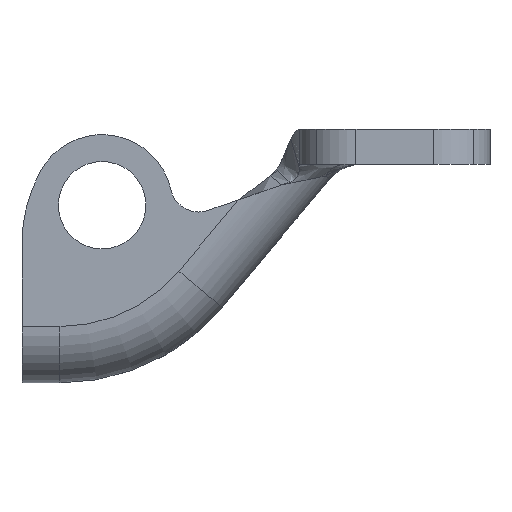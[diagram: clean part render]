
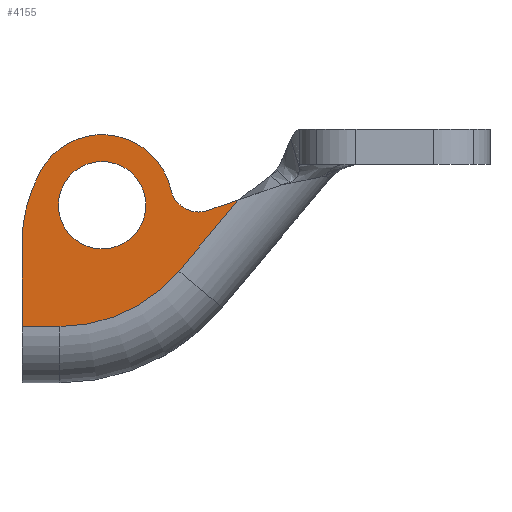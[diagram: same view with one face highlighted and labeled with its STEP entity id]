
A CAD part, front view. The second image highlights one B-rep face of the part: STEP entity #4155.
In plain terms, the highlighted planar face has unit normal (0, -1, 0).
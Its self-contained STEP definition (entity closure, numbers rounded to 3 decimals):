
#79=AXIS2_PLACEMENT_3D('Circle Axis2P3D',#77,#78,$) ;
#168=AXIS2_PLACEMENT_3D('Circle Axis2P3D',#166,#167,$) ;
#208=AXIS2_PLACEMENT_3D('Circle Axis2P3D',#206,#207,$) ;
#225=AXIS2_PLACEMENT_3D('Circle Axis2P3D',#223,#224,$) ;
#270=AXIS2_PLACEMENT_3D('Circle Axis2P3D',#268,#269,$) ;
#287=AXIS2_PLACEMENT_3D('Circle Axis2P3D',#285,#286,$) ;
#484=AXIS2_PLACEMENT_3D('Circle Axis2P3D',#482,#483,$) ;
#508=AXIS2_PLACEMENT_3D('Circle Axis2P3D',#506,#507,$) ;
#546=AXIS2_PLACEMENT_3D('Circle Axis2P3D',#544,#545,$) ;
#570=AXIS2_PLACEMENT_3D('Circle Axis2P3D',#568,#569,$) ;
#700=AXIS2_PLACEMENT_3D('Circle Axis2P3D',#698,#699,$) ;
#4112=AXIS2_PLACEMENT_3D('Plane Axis2P3D',#4109,#4110,#4111) ;
#4116=AXIS2_PLACEMENT_3D('Circle Axis2P3D',#4114,#4115,$) ;
#37=CARTESIAN_POINT('Line Origine',(142.085,-22.8,22.606)) ;
#41=CARTESIAN_POINT('Vertex',(143.183,-22.8,22.984)) ;
#43=CARTESIAN_POINT('Vertex',(140.987,-22.8,22.228)) ;
#77=CARTESIAN_POINT('Axis2P3D Location',(140.336,-22.8,24.119)) ;
#81=CARTESIAN_POINT('Vertex',(139.381,-22.8,22.361)) ;
#163=CARTESIAN_POINT('Vertex',(138.395,-22.8,23.635)) ;
#166=CARTESIAN_POINT('Axis2P3D Location',(140.336,-22.8,24.119)) ;
#187=CARTESIAN_POINT('Vertex',(130.526,-22.8,26.619)) ;
#203=CARTESIAN_POINT('Vertex',(128.864,-22.8,24.473)) ;
#206=CARTESIAN_POINT('Axis2P3D Location',(133.5,-22.8,22.6)) ;
#223=CARTESIAN_POINT('Axis2P3D Location',(133.5,-22.8,22.6)) ;
#227=CARTESIAN_POINT('Vertex',(133.064,-22.8,27.581)) ;
#258=CARTESIAN_POINT('Vertex',(136.404,-22.8,26.671)) ;
#268=CARTESIAN_POINT('Axis2P3D Location',(133.5,-22.8,22.6)) ;
#285=CARTESIAN_POINT('Axis2P3D Location',(133.5,-22.8,22.6)) ;
#289=CARTESIAN_POINT('Vertex',(138.351,-22.8,23.81)) ;
#316=CARTESIAN_POINT('Line Origine',(138.373,-22.8,23.722)) ;
#479=CARTESIAN_POINT('Vertex',(136.6,-22.8,22.6)) ;
#482=CARTESIAN_POINT('Axis2P3D Location',(133.5,-22.8,22.6)) ;
#486=CARTESIAN_POINT('Vertex',(133.5,-22.8,25.7)) ;
#506=CARTESIAN_POINT('Axis2P3D Location',(133.5,-22.8,22.6)) ;
#510=CARTESIAN_POINT('Vertex',(130.4,-22.8,22.6)) ;
#544=CARTESIAN_POINT('Axis2P3D Location',(133.5,-22.8,22.6)) ;
#548=CARTESIAN_POINT('Vertex',(133.5,-22.8,19.5)) ;
#568=CARTESIAN_POINT('Axis2P3D Location',(133.5,-22.8,22.6)) ;
#614=CARTESIAN_POINT('Line Origine',(140.05,-22.8,19.25)) ;
#618=CARTESIAN_POINT('Vertex',(138.941,-22.8,17.929)) ;
#688=CARTESIAN_POINT('Vertex',(130.515,-22.8,14.)) ;
#698=CARTESIAN_POINT('Axis2P3D Location',(130.515,-22.8,25.)) ;
#722=CARTESIAN_POINT('Line Origine',(138.868,-22.8,14.)) ;
#726=CARTESIAN_POINT('Vertex',(127.822,-22.8,14.)) ;
#4109=CARTESIAN_POINT('Axis2P3D Location',(117.,-22.8,28.)) ;
#4114=CARTESIAN_POINT('Axis2P3D Location',(137.822,-22.8,19.95)) ;
#4118=CARTESIAN_POINT('Vertex',(127.822,-22.8,19.95)) ;
#4120=CARTESIAN_POINT('Vertex',(128.55,-22.8,23.696)) ;
#4123=CARTESIAN_POINT('Line Origine',(127.822,-22.8,16.975)) ;
#4128=CARTESIAN_POINT('Line Origine',(128.707,-22.8,24.085)) ;
#38=DIRECTION('Vector Direction',(-0.946,0.,-0.326)) ;
#78=DIRECTION('Axis2P3D Direction',(-0.,1.,0.)) ;
#167=DIRECTION('Axis2P3D Direction',(-0.,1.,0.)) ;
#207=DIRECTION('Axis2P3D Direction',(0.,1.,0.)) ;
#224=DIRECTION('Axis2P3D Direction',(0.,1.,0.)) ;
#269=DIRECTION('Axis2P3D Direction',(0.,1.,0.)) ;
#286=DIRECTION('Axis2P3D Direction',(0.,1.,0.)) ;
#317=DIRECTION('Vector Direction',(-0.242,0.,0.97)) ;
#483=DIRECTION('Axis2P3D Direction',(0.,1.,0.)) ;
#507=DIRECTION('Axis2P3D Direction',(0.,1.,0.)) ;
#545=DIRECTION('Axis2P3D Direction',(0.,1.,-0.)) ;
#569=DIRECTION('Axis2P3D Direction',(0.,1.,-0.)) ;
#615=DIRECTION('Vector Direction',(0.643,0.,0.766)) ;
#699=DIRECTION('Axis2P3D Direction',(0.,1.,0.)) ;
#723=DIRECTION('Vector Direction',(1.,0.,0.)) ;
#4110=DIRECTION('Axis2P3D Direction',(-0.,1.,0.)) ;
#4111=DIRECTION('Axis2P3D XDirection',(1.,0.,0.)) ;
#4115=DIRECTION('Axis2P3D Direction',(-0.,1.,0.)) ;
#4124=DIRECTION('Vector Direction',(0.,0.,1.)) ;
#4129=DIRECTION('Vector Direction',(0.375,0.,0.927)) ;
#39=VECTOR('Line Direction',#38,1.) ;
#318=VECTOR('Line Direction',#317,1.) ;
#616=VECTOR('Line Direction',#615,1.) ;
#724=VECTOR('Line Direction',#723,1.) ;
#4125=VECTOR('Line Direction',#4124,1.) ;
#4130=VECTOR('Line Direction',#4129,1.) ;
#4134=ORIENTED_EDGE('',*,*,#4122,.F.) ;
#4135=ORIENTED_EDGE('',*,*,#4127,.F.) ;
#4136=ORIENTED_EDGE('',*,*,#728,.T.) ;
#4137=ORIENTED_EDGE('',*,*,#702,.T.) ;
#4138=ORIENTED_EDGE('',*,*,#620,.T.) ;
#4139=ORIENTED_EDGE('',*,*,#45,.T.) ;
#4140=ORIENTED_EDGE('',*,*,#83,.F.) ;
#4141=ORIENTED_EDGE('',*,*,#170,.F.) ;
#4142=ORIENTED_EDGE('',*,*,#320,.T.) ;
#4143=ORIENTED_EDGE('',*,*,#291,.T.) ;
#4144=ORIENTED_EDGE('',*,*,#272,.T.) ;
#4145=ORIENTED_EDGE('',*,*,#229,.F.) ;
#4146=ORIENTED_EDGE('',*,*,#210,.F.) ;
#4147=ORIENTED_EDGE('',*,*,#4132,.F.) ;
#4150=ORIENTED_EDGE('',*,*,#512,.F.) ;
#4151=ORIENTED_EDGE('',*,*,#488,.F.) ;
#4152=ORIENTED_EDGE('',*,*,#572,.T.) ;
#4153=ORIENTED_EDGE('',*,*,#550,.T.) ;
#4154=FACE_BOUND('',#4149,.T.) ;
#4155=ADVANCED_FACE('\X2\6C1452A88F6C76D889E395015B8988C594A391D1\X0\',(#4148,#4154),#4113,.F.) ;
#80=CIRCLE('generated circle',#79,2.) ;
#169=CIRCLE('generated circle',#168,2.) ;
#209=CIRCLE('generated circle',#208,5.) ;
#226=CIRCLE('generated circle',#225,5.) ;
#271=CIRCLE('generated circle',#270,5.) ;
#288=CIRCLE('generated circle',#287,5.) ;
#485=CIRCLE('generated circle',#484,3.1) ;
#509=CIRCLE('generated circle',#508,3.1) ;
#547=CIRCLE('generated circle',#546,3.1) ;
#571=CIRCLE('generated circle',#570,3.1) ;
#701=CIRCLE('generated circle',#700,11.) ;
#4117=CIRCLE('generated circle',#4116,10.) ;
#45=EDGE_CURVE('',#42,#44,#40,.T.) ;
#83=EDGE_CURVE('',#82,#44,#80,.F.) ;
#170=EDGE_CURVE('',#164,#82,#169,.F.) ;
#210=EDGE_CURVE('',#204,#188,#209,.T.) ;
#229=EDGE_CURVE('',#188,#228,#226,.T.) ;
#272=EDGE_CURVE('',#259,#228,#271,.F.) ;
#291=EDGE_CURVE('',#290,#259,#288,.F.) ;
#320=EDGE_CURVE('',#164,#290,#319,.T.) ;
#488=EDGE_CURVE('',#480,#487,#485,.F.) ;
#512=EDGE_CURVE('',#487,#511,#509,.F.) ;
#550=EDGE_CURVE('',#549,#511,#547,.T.) ;
#572=EDGE_CURVE('',#480,#549,#571,.T.) ;
#620=EDGE_CURVE('',#619,#42,#617,.T.) ;
#702=EDGE_CURVE('',#689,#619,#701,.F.) ;
#728=EDGE_CURVE('',#727,#689,#725,.T.) ;
#4122=EDGE_CURVE('',#4119,#4121,#4117,.T.) ;
#4127=EDGE_CURVE('',#727,#4119,#4126,.T.) ;
#4132=EDGE_CURVE('',#4121,#204,#4131,.T.) ;
#4133=EDGE_LOOP('',(#4134,#4135,#4136,#4137,#4138,#4139,#4140,#4141,#4142,#4143,#4144,#4145,#4146,#4147)) ;
#4149=EDGE_LOOP('',(#4150,#4151,#4152,#4153)) ;
#4148=FACE_OUTER_BOUND('',#4133,.T.) ;
#40=LINE('Line',#37,#39) ;
#319=LINE('Line',#316,#318) ;
#617=LINE('Line',#614,#616) ;
#725=LINE('Line',#722,#724) ;
#4126=LINE('Line',#4123,#4125) ;
#4131=LINE('Line',#4128,#4130) ;
#4113=PLANE('Plane',#4112) ;
#42=VERTEX_POINT('',#41) ;
#44=VERTEX_POINT('',#43) ;
#82=VERTEX_POINT('',#81) ;
#164=VERTEX_POINT('',#163) ;
#188=VERTEX_POINT('',#187) ;
#204=VERTEX_POINT('',#203) ;
#228=VERTEX_POINT('',#227) ;
#259=VERTEX_POINT('',#258) ;
#290=VERTEX_POINT('',#289) ;
#480=VERTEX_POINT('',#479) ;
#487=VERTEX_POINT('',#486) ;
#511=VERTEX_POINT('',#510) ;
#549=VERTEX_POINT('',#548) ;
#619=VERTEX_POINT('',#618) ;
#689=VERTEX_POINT('',#688) ;
#727=VERTEX_POINT('',#726) ;
#4119=VERTEX_POINT('',#4118) ;
#4121=VERTEX_POINT('',#4120) ;
